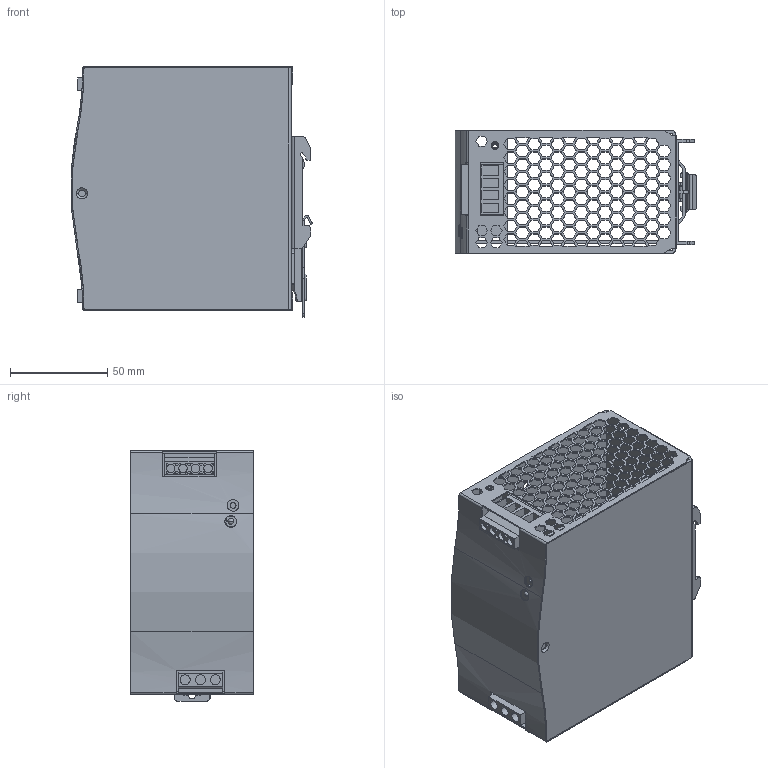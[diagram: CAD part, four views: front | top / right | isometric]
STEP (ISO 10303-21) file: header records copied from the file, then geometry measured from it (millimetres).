
FILE_DESCRIPTION(('Creo Elements/Direct Modeling STEP Export'),'2;1');
FILE_NAME('NDR-240-3D.stp','2020-08-14T 8:34:00',(''),(''),'PTC Creo Elements/Direct Modeling STEP processor for AP214 (Solid Model)','PTC Creo Elements/Direct Modeling 19.0 09-May-2014 (C) Parametric Technology GmbH','');
FILE_SCHEMA(('AUTOMOTIVE_DESIGN { 1 0 10303 214 1 1 1 1 }'));
Length unit declared in the file: millimetre
Products named in the file (19): P3_1.PRT; _S___S_O_S_JL2.PRT; LED.PRT; VR.PRT; A2.ASM; _X2_02CB_X0__S___S__Y.PRT; _S___S_O_S_JL.PRT; PRODUCT_2720.PRT; A1.ASM; PCB1-1603.PRT; PCB1-1564.ASM; PCB2_1.PRT; PCB2.ASM; P3.PRT; P1.PRT; _X2_639B5EA75927_X0_.ASM; NDR-240.ASM; NDR-240-3D_1.ASM; NDR-240-3D.stp
Assembly tree (19 placements, depth 6):
  NDR-240-3D.stp
    NDR-240-3D_1.ASM
      NDR-240.ASM
        _X2_639B5EA75927_X0_.ASM
          P1.PRT
          P3.PRT
        PCB2.ASM
          PCB2_1.PRT
        PCB1-1564.ASM
          PCB1-1603.PRT
        A1.ASM
          PRODUCT_2720.PRT
          _S___S_O_S_JL.PRT
          _X2_02CB_X0__S___S__Y.PRT
          P3_1.PRT  x2
          A2.ASM
            VR.PRT
            LED.PRT
          _S___S_O_S_JL2.PRT
Bounding box: 123.92 x 63 x 128.71 mm (x, y, z)
Volume: 109930.4 mm3; surface area: 162854.3 mm2
Topology: 12 solids, 12 shells, 2192 faces, 6378 edges, 4236 vertices
Faces by surface type: plane 1890, cylinder 250, cone 42, torus 10
Entity records: 72175 total; most frequent: CARTESIAN_POINT 12940, ORIENTED_EDGE 12636, DIRECTION 11014, EDGE_CURVE 6318, VECTOR 5734, LINE 5734, VERTEX_POINT 4196, EDGE_LOOP 2770
